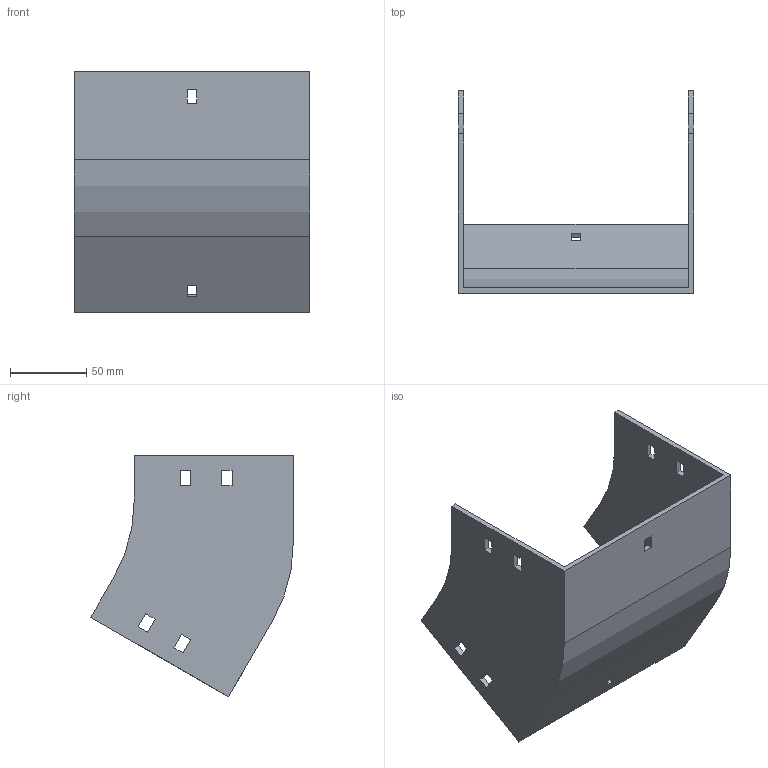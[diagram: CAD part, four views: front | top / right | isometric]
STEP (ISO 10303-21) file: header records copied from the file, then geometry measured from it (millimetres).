
FILE_DESCRIPTION (( 'STEP AP214' ), '1' );
FILE_NAME ('32F1D150.step', '2025-02-21T12:59:23', ( '' ), ( '' ), 'SwSTEP 2.0', 'SolidWorks 2023', '' );
FILE_SCHEMA (( 'AUTOMOTIVE_DESIGN' ));
Length unit declared in the file: millimetre
Products named in the file (1): 32F1D150
Bounding box: 154 x 132.4 x 157.98 mm (x, y, z)
Volume: 186623.4 mm3; surface area: 111088.9 mm2
Topology: 1 solids, 1 shells, 58 faces, 168 edges, 112 vertices
Faces by surface type: plane 54, cylinder 4
Entity records: 1943 total; most frequent: CARTESIAN_POINT 339, ORIENTED_EDGE 336, DIRECTION 294, EDGE_CURVE 168, LINE 160, VECTOR 160, VERTEX_POINT 112, EDGE_LOOP 78
